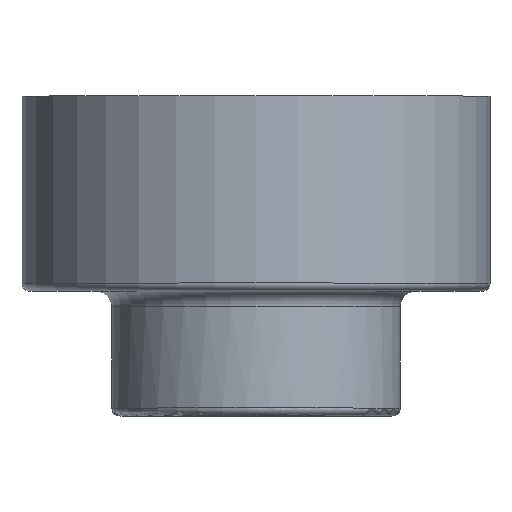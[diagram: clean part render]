
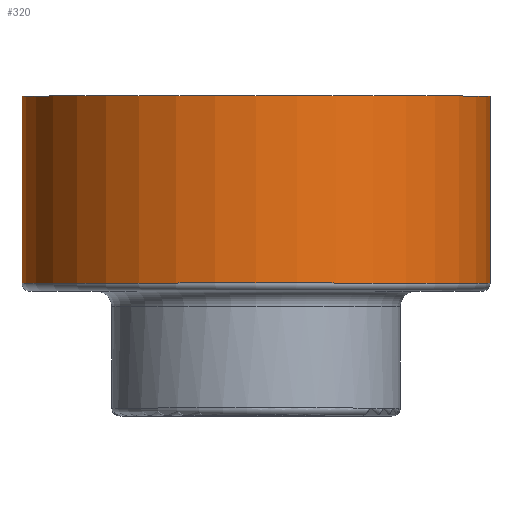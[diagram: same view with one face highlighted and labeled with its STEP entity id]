
A CAD part, top view. The second image highlights one B-rep face of the part: STEP entity #320.
In plain terms, the highlighted cylindrical face has radius 30 mm (diameter 60 mm), a full revolution.
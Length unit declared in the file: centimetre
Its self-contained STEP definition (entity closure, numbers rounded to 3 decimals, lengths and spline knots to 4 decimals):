
#116=CIRCLE('',#130,3.);
#118=CIRCLE('',#134,3.);
#130=AXIS2_PLACEMENT_3D('',#1826,#158,#159);
#133=AXIS2_PLACEMENT_3D('',#1831,#163,#164);
#134=AXIS2_PLACEMENT_3D('',#1832,#165,#166);
#158=DIRECTION('',(0.,-1.,0.));
#159=DIRECTION('',(-3.,0.,0.));
#163=DIRECTION('',(0.,1.,0.));
#164=DIRECTION('',(3.,0.,0.));
#165=DIRECTION('',(0.,-1.,0.));
#166=DIRECTION('',(3.,0.,0.));
#182=CYLINDRICAL_SURFACE('',#133,3.);
#195=VERTEX_POINT('',#1827);
#197=VERTEX_POINT('',#1833);
#224=EDGE_CURVE('',#195,#195,#116,.T.);
#226=EDGE_CURVE('',#197,#197,#118,.T.);
#252=ORIENTED_EDGE('',*,*,#226,.T.);
#253=ORIENTED_EDGE('',*,*,#224,.F.);
#279=EDGE_LOOP('',(#252));
#280=EDGE_LOOP('',(#253));
#301=FACE_BOUND('',#279,.T.);
#302=FACE_BOUND('',#280,.T.);
#320=ADVANCED_FACE('',(#301,#302),#182,.T.);
#1826=CARTESIAN_POINT('',(0.,1.7,0.));
#1827=CARTESIAN_POINT('',(3.,1.7,0.));
#1831=CARTESIAN_POINT('',(0.,1.6,0.));
#1832=CARTESIAN_POINT('',(0.,4.1,0.));
#1833=CARTESIAN_POINT('',(3.,4.1,0.));
